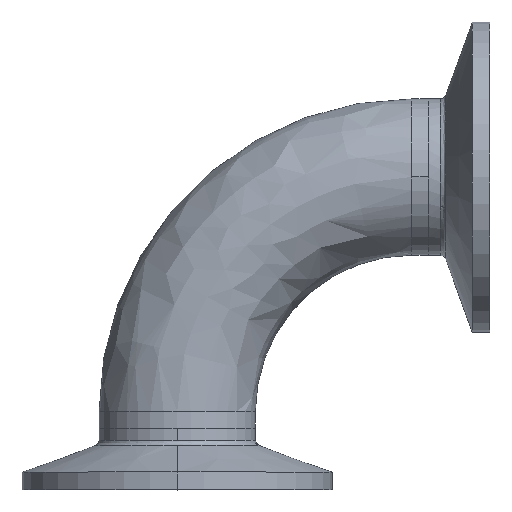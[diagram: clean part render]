
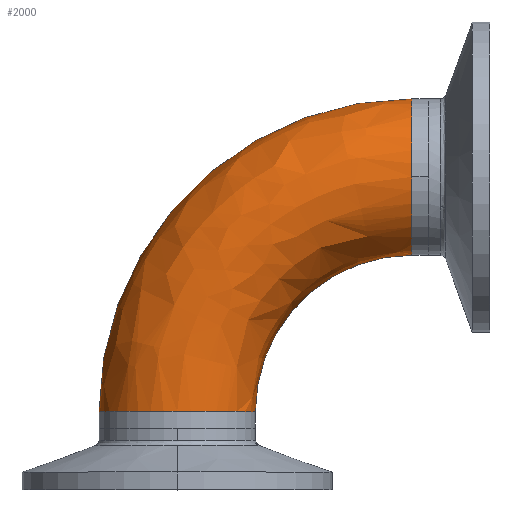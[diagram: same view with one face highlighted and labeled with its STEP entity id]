
A CAD part, top view. The second image highlights one B-rep face of the part: STEP entity #2000.
In plain terms, the highlighted free-form (B-spline) face has degree [3, 3] with [4, 4] control points.
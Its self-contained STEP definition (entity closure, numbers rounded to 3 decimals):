
#10 = DIRECTION ( 'NONE',  ( 0., 1., 0. ) ) ;
#18 = CARTESIAN_POINT ( 'NONE',  ( -12.7, 2.7, 0. ) ) ;
#28 = CARTESIAN_POINT ( 'NONE',  ( 38.1, 53.5, 0. ) ) ;
#70 = EDGE_CURVE ( 'NONE', #3111, #327, #2409, .T. ) ;
#158 = AXIS2_PLACEMENT_3D ( 'NONE', #1981, #511, #2216 ) ;
#242 = DIRECTION ( 'NONE',  ( 0., 0., -1. ) ) ;
#283 = CARTESIAN_POINT ( 'NONE',  ( -12.7, 32.458, 25.4 ) ) ;
#327 = VERTEX_POINT ( 'NONE', #1888 ) ;
#511 = DIRECTION ( 'NONE',  ( 0., 1., 0. ) ) ;
#521 = CARTESIAN_POINT ( 'NONE',  ( 38.1, 53.5, 25.4 ) ) ;
#620 = EDGE_LOOP ( 'NONE', ( #2531, #722, #1648, #2330, #1596 ) ) ;
#691 = CARTESIAN_POINT ( 'NONE',  ( 38.1, 53.5, 0. ) ) ;
#704 = CIRCLE ( 'NONE', #1471, 12.7 ) ;
#722 = ORIENTED_EDGE ( 'NONE', *, *, #70, .T. ) ;
#748 = CARTESIAN_POINT ( 'NONE',  ( 38.1, 2.7, 0. ) ) ;
#767 = CARTESIAN_POINT ( 'NONE',  ( 12.7, 17.579, 25.4 ) ) ;
#986 = DIRECTION ( 'NONE',  ( -1., 0., 0. ) ) ;
#1014 = CARTESIAN_POINT ( 'NONE',  ( 38.1, 28.1, 25.4 ) ) ;
#1193 = DIRECTION ( 'NONE',  ( -1., 0., 0. ) ) ;
#1264 = CARTESIAN_POINT ( 'NONE',  ( 12.7, 17.579, 0. ) ) ;
#1311 = CARTESIAN_POINT ( 'NONE',  ( 38.1, 40.8, 0. ) ) ;
#1362 = VERTEX_POINT ( 'NONE', #1703 ) ;
#1383 = CIRCLE ( 'NONE', #3103, 12.7 ) ;
#1471 = AXIS2_PLACEMENT_3D ( 'NONE', #1311, #2971, #1556 ) ;
#1488 = DIRECTION ( 'NONE',  ( -1., 0., 0. ) ) ;
#1492 = EDGE_CURVE ( 'NONE', #1815, #1901, #2474, .T. ) ;
#1502 = CARTESIAN_POINT ( 'NONE',  ( 8.342, 53.5, 0. ) ) ;
#1513 = CARTESIAN_POINT ( 'NONE',  ( 38.1, 28.1, 0. ) ) ;
#1556 = DIRECTION ( 'NONE',  ( 0., 1., 0. ) ) ;
#1596 = ORIENTED_EDGE ( 'NONE', *, *, #1492, .F. ) ;
#1648 = ORIENTED_EDGE ( 'NONE', *, *, #2557, .T. ) ;
#1703 = CARTESIAN_POINT ( 'NONE',  ( 38.1, 40.8, 12.7 ) ) ;
#1743 = CARTESIAN_POINT ( 'NONE',  ( 12.7, 2.7, 0. ) ) ;
#1745 = CARTESIAN_POINT ( 'NONE',  ( -12.7, 2.7, 25.4 ) ) ;
#1751 = AXIS2_PLACEMENT_3D ( 'NONE', #2609, #242, #1193 ) ;
#1815 = VERTEX_POINT ( 'NONE', #3034 ) ;
#1888 = CARTESIAN_POINT ( 'NONE',  ( 38.1, 28.1, 0. ) ) ;
#1901 = VERTEX_POINT ( 'NONE', #691 ) ;
#1980 = EDGE_CURVE ( 'NONE', #1815, #3111, #2850, .T. ) ;
#1981 = CARTESIAN_POINT ( 'NONE',  ( 0., 2.7, 0. ) ) ;
#1991 = CARTESIAN_POINT ( 'NONE',  ( 8.342, 53.5, 25.4 ) ) ;
#2000 = ADVANCED_FACE ( 'NONE', ( #2159 ), #2284, .T. ) ;
#2060 = EDGE_CURVE ( 'NONE', #1362, #1901, #704, .T. ) ;
#2159 = FACE_OUTER_BOUND ( 'NONE', #620, .T. ) ;
#2216 = DIRECTION ( 'NONE',  ( -1., 0., 0. ) ) ;
#2225 = CARTESIAN_POINT ( 'NONE',  ( 12.7, 2.7, 25.4 ) ) ;
#2284 =( BOUNDED_SURFACE ( )  B_SPLINE_SURFACE ( 3, 3, ( 
 ( #18, #2922, #1502, #28 ),
 ( #1745, #283, #1991, #521 ),
 ( #2225, #767, #2453, #1014 ),
 ( #2688, #1264, #2935, #1513 ) ),
 .UNSPECIFIED., .F., .F., .F. ) 
 B_SPLINE_SURFACE_WITH_KNOTS ( ( 4, 4 ),
 ( 4, 4 ),
 ( 0., 1. ),
 ( 0., 1. ),
 .UNSPECIFIED. ) 
 GEOMETRIC_REPRESENTATION_ITEM ( )  RATIONAL_B_SPLINE_SURFACE ( (
 ( 1., 0.805, 0.805, 1.),
 ( 0.333, 0.268, 0.268, 0.333),
 ( 0.333, 0.268, 0.268, 0.333),
 ( 1., 0.805, 0.805, 1.) ) ) 
 REPRESENTATION_ITEM ( '' )  SURFACE ( )  );
#2330 = ORIENTED_EDGE ( 'NONE', *, *, #2060, .T. ) ;
#2409 = CIRCLE ( 'NONE', #1751, 25.4 ) ;
#2432 = DIRECTION ( 'NONE',  ( 0., 0., -1. ) ) ;
#2453 = CARTESIAN_POINT ( 'NONE',  ( 23.221, 28.1, 25.4 ) ) ;
#2474 = CIRCLE ( 'NONE', #2750, 50.8 ) ;
#2531 = ORIENTED_EDGE ( 'NONE', *, *, #1980, .T. ) ;
#2557 = EDGE_CURVE ( 'NONE', #327, #1362, #1383, .T. ) ;
#2609 = CARTESIAN_POINT ( 'NONE',  ( 38.1, 2.7, 0. ) ) ;
#2688 = CARTESIAN_POINT ( 'NONE',  ( 12.7, 2.7, 0. ) ) ;
#2750 = AXIS2_PLACEMENT_3D ( 'NONE', #748, #2432, #986 ) ;
#2850 = CIRCLE ( 'NONE', #158, 12.7 ) ;
#2908 = CARTESIAN_POINT ( 'NONE',  ( 38.1, 40.8, 0. ) ) ;
#2922 = CARTESIAN_POINT ( 'NONE',  ( -12.7, 32.458, 0. ) ) ;
#2935 = CARTESIAN_POINT ( 'NONE',  ( 23.221, 28.1, 0. ) ) ;
#2971 = DIRECTION ( 'NONE',  ( -1., 0., 0. ) ) ;
#3034 = CARTESIAN_POINT ( 'NONE',  ( -12.7, 2.7, 0. ) ) ;
#3103 = AXIS2_PLACEMENT_3D ( 'NONE', #2908, #1488, #10 ) ;
#3111 = VERTEX_POINT ( 'NONE', #1743 ) ;
